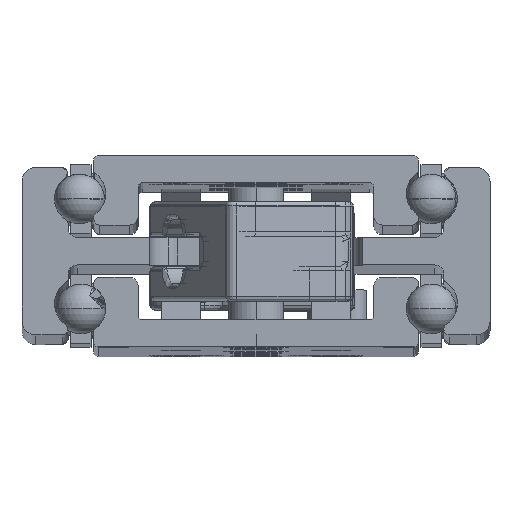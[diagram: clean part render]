
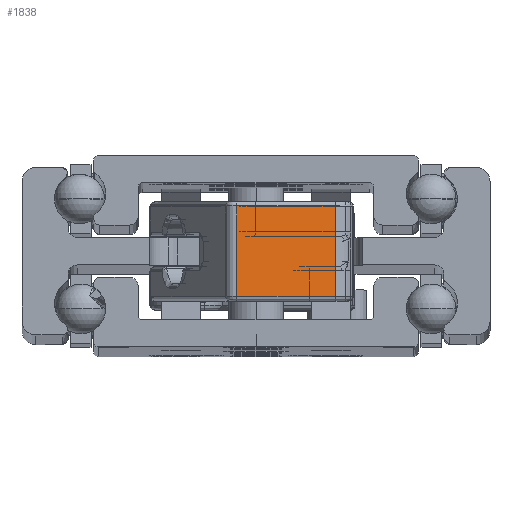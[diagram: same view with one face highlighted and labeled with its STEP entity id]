
A CAD part, top view. The second image highlights one B-rep face of the part: STEP entity #1838.
In plain terms, the highlighted planar face has unit normal (0.225, 0, 0.974) as drawn and (-1, 0, 0) by its records, which use the part's own axes.
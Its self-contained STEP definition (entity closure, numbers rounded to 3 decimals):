
#1838 = ADVANCED_FACE ( 'NONE', ( #8630 ), #28574, .F. ) ;
#3096 = DIRECTION ( 'NONE',  ( 0., 0., 1. ) ) ;
#3647 = LINE ( 'NONE', #27268, #27134 ) ;
#4039 = EDGE_CURVE ( 'NONE', #29485, #13859, #3647, .T. ) ;
#4816 = CARTESIAN_POINT ( 'NONE',  ( -37., -4., 5.4 ) ) ;
#4964 = CARTESIAN_POINT ( 'NONE',  ( -37., 8., 4.9 ) ) ;
#5231 = VERTEX_POINT ( 'NONE', #29267 ) ;
#8630 = FACE_OUTER_BOUND ( 'NONE', #21317, .T. ) ;
#9165 = CARTESIAN_POINT ( 'NONE',  ( -37., 8., -4.9 ) ) ;
#9663 = DIRECTION ( 'NONE',  ( 1., 0., 0. ) ) ;
#9983 = DIRECTION ( 'NONE',  ( 0., 0., -1. ) ) ;
#10318 = CARTESIAN_POINT ( 'NONE',  ( -37., -3., 4.9 ) ) ;
#12478 = CARTESIAN_POINT ( 'NONE',  ( -37., 8., 5.4 ) ) ;
#13859 = VERTEX_POINT ( 'NONE', #20150 ) ;
#13889 = VERTEX_POINT ( 'NONE', #10318 ) ;
#14833 = LINE ( 'NONE', #12478, #18271 ) ;
#14994 = LINE ( 'NONE', #24530, #28718 ) ;
#17166 = DIRECTION ( 'NONE',  ( 0., 1., 0. ) ) ;
#17478 = LINE ( 'NONE', #4964, #25265 ) ;
#18271 = VECTOR ( 'NONE', #9983, 1000. ) ;
#19196 = DIRECTION ( 'NONE',  ( 0., 1., 0. ) ) ;
#20150 = CARTESIAN_POINT ( 'NONE',  ( -37., -3., -4.9 ) ) ;
#21156 = EDGE_CURVE ( 'NONE', #13859, #13889, #14994, .T. ) ;
#21317 = EDGE_LOOP ( 'NONE', ( #30478, #21361, #26331, #23594 ) ) ;
#21361 = ORIENTED_EDGE ( 'NONE', *, *, #24633, .T. ) ;
#22747 = DIRECTION ( 'NONE',  ( 0., -1., 0. ) ) ;
#22988 = AXIS2_PLACEMENT_3D ( 'NONE', #4816, #9663, #19196 ) ;
#23594 = ORIENTED_EDGE ( 'NONE', *, *, #4039, .T. ) ;
#24530 = CARTESIAN_POINT ( 'NONE',  ( -37., -3., 5.4 ) ) ;
#24633 = EDGE_CURVE ( 'NONE', #13889, #5231, #17478, .T. ) ;
#24644 = EDGE_CURVE ( 'NONE', #5231, #29485, #14833, .T. ) ;
#25265 = VECTOR ( 'NONE', #17166, 1000. ) ;
#26331 = ORIENTED_EDGE ( 'NONE', *, *, #24644, .T. ) ;
#27134 = VECTOR ( 'NONE', #22747, 1000. ) ;
#27268 = CARTESIAN_POINT ( 'NONE',  ( -37., -4., -4.9 ) ) ;
#28574 = PLANE ( 'NONE',  #22988 ) ;
#28718 = VECTOR ( 'NONE', #3096, 1000. ) ;
#29267 = CARTESIAN_POINT ( 'NONE',  ( -37., 8., 4.9 ) ) ;
#29485 = VERTEX_POINT ( 'NONE', #9165 ) ;
#30478 = ORIENTED_EDGE ( 'NONE', *, *, #21156, .T. ) ;
